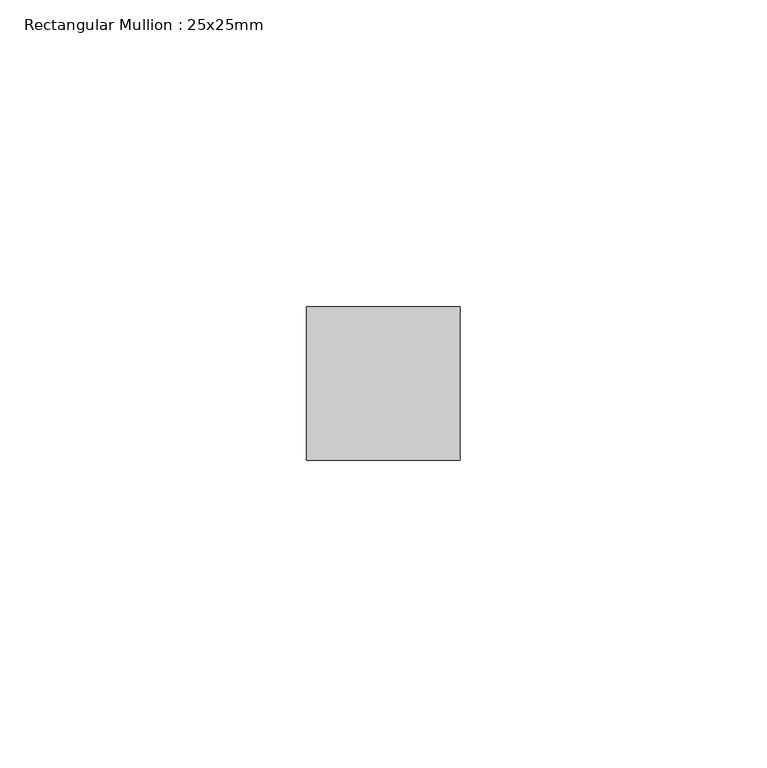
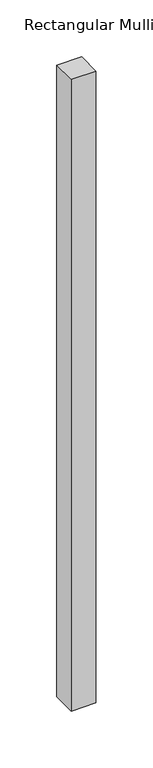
"""IFC4 building model written with IfcOpenShell, lengths in millimetres: member geometry, Rectangular Mullion : 25x25mm."""

from ifc_helpers import new_model, si_unit, frame, origin, place, context, project, spatial, polyline, outline, extrude, source, transform, mapped, element, save


def rectangular_mullion_25x25mm_00ce815f(model_context):
    return source(origin(), model_context, "Body", "SweptSolid", [
        extrude(outline(polyline([(12.5, 0.5), (12.5, -24.5), (-12.5, -24.5), (-12.5, 0.5), (12.5, 0.5)])), frame((0.0, 0.0, -677.5000001), z_axis=(0.0, 0.0, 1.0), x_axis=(1.0, 0.0, 0.0)), (0.0, 0.0, 1.0), 677.5000001),
    ])


if __name__ == "__main__":
    model = new_model("IFC4")
    model_context = context("Model", 3, world=origin())
    ifc_project = project(units=[si_unit("LENGTHUNIT", "METRE", prefix="MILLI")], contexts=[model_context])
    site = spatial("IfcSite", under=ifc_project)
    building = spatial("IfcBuilding", under=site)
    placement = place(None, origin())
    rectangular_mullion_25x25mm_shape = rectangular_mullion_25x25mm_00ce815f(model_context)
    element("IfcMember", 1, ObjectType="Rectangular Mullion : 25x25mm", at=placement, inside=building, context=model_context, shape_type="MappedRepresentation", body=[
        mapped(rectangular_mullion_25x25mm_shape, transform((0.0, 0.0, 0.0), x_axis=(1.0, 0.0, 0.0), y_axis=(0.0, 1.0, 0.0), z_axis=(0.0, 0.0, 1.0))),
    ])
    save(model, "model.ifc")
